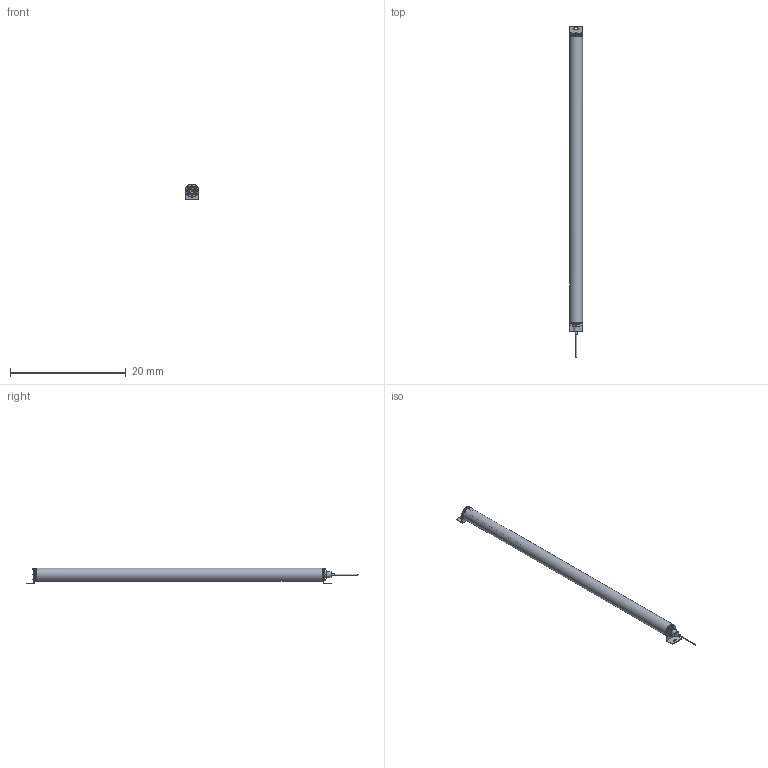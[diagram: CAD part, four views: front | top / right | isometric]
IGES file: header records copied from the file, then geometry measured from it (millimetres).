
Start section:  Autodesk DirectConnect version 7.0.27.0 ---- IGES version 5.3
Global section: file name: C:\ACADFILES\MG_PYLONS\CUSTOMER_FILES\MG-48-PYLON_3D_SMB_PT.iges; native system: Autodesk DirectConnect 7.0.27.0; preprocessor: 7.0.27.0; author: ENGINEERMAIN; organization: Unknown; date: 20150810.142702; units: millimetre
Bounding box: 2.26 x 57.44 x 2.75 mm (x, y, z)
Surface area: 1456.6 mm2 (no closed solid volume)
Topology: 0 solids, 0 shells, 784 faces, 4052 edges, 4055 vertices
Faces by surface type: bspline 784
